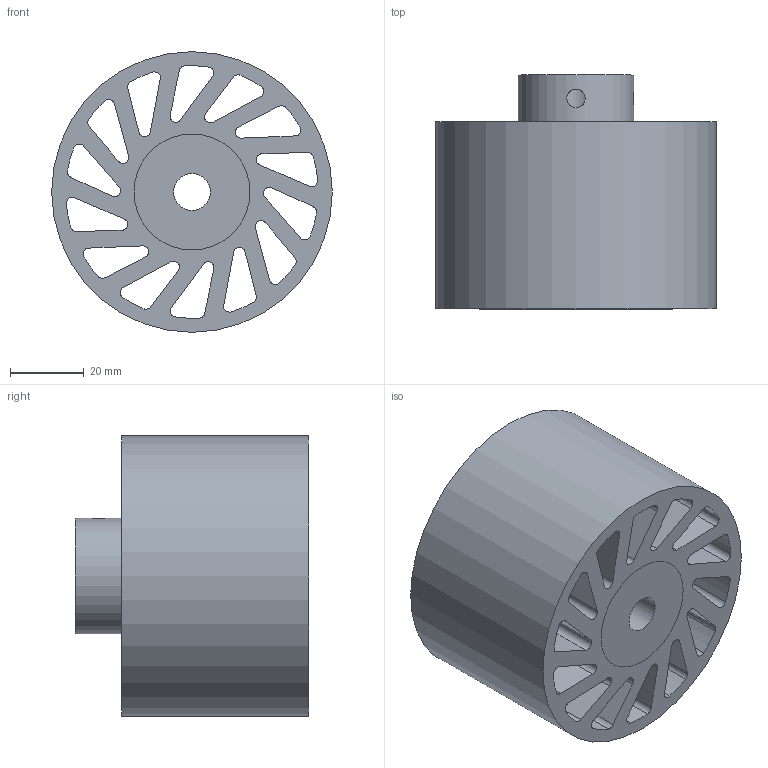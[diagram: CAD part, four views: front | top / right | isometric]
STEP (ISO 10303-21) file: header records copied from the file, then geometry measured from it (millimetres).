
FILE_DESCRIPTION(/* description */ (''),/* implementation_level */ '2;1');
FILE_NAME(/* name */ 'NCWM-680-XXX-YYY.stp',/* time_stamp */ '2023-02-02T16:18:13-06:00',/* author */ ('AG'),/* organization */ ('Meridian Laboratory'),/* preprocessor_version */ 'ST-DEVELOPER v18.1',/* originating_system */ 'Autodesk Inventor 2022',/* authorisation */ '');
FILE_SCHEMA (('AUTOMOTIVE_DESIGN { 1 0 10303 214 3 1 1 }'));
Length unit declared in the file: millimetre
Products named in the file (1): NCWM-640
Bounding box: 76.2 x 63.5 x 76.2 mm (x, y, z)
Volume: 165452.2 mm3; surface area: 62666.8 mm2
Topology: 2 solids, 2 shells, 94 faces, 274 edges, 184 vertices
Faces by surface type: cylinder 62, plane 32
Full cylindrical faces by diameter (mm): 5 x2, 10.025 x1, 31.496 x2, 76.2 x1
Entity records: 3510 total; most frequent: CARTESIAN_POINT 689, DIRECTION 576, ORIENTED_EDGE 548, EDGE_CURVE 274, AXIS2_PLACEMENT_3D 215, VERTEX_POINT 184, LINE 146, VECTOR 146
